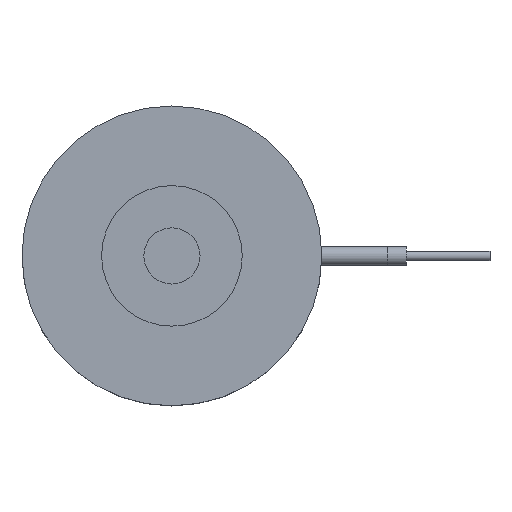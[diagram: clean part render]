
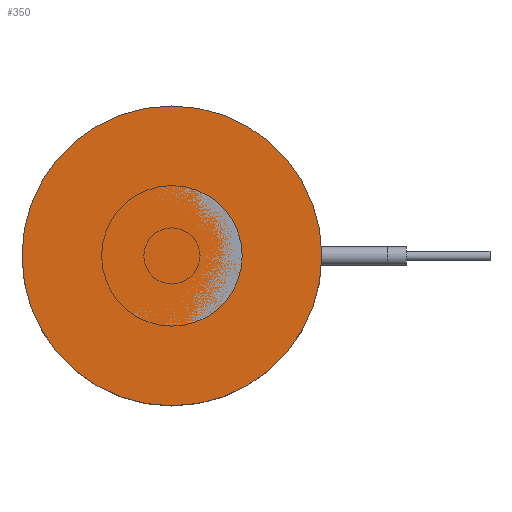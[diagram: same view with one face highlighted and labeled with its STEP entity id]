
A CAD part, top view. The second image highlights one B-rep face of the part: STEP entity #350.
In plain terms, the highlighted planar face has unit normal (0, 0, 1).
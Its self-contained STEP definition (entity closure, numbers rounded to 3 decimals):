
#222=PLANE('',#1190);
#274=FACE_OUTER_BOUND('',#565,.T.);
#350=ADVANCED_FACE('',(#274),#222,.F.);
#565=EDGE_LOOP('',(#777));
#777=ORIENTED_EDGE('',*,*,#976,.F.);
#869=VERTEX_POINT('',#1881);
#976=EDGE_CURVE('',#869,#869,#1046,.T.);
#1046=CIRCLE('',#1189,16.);
#1189=AXIS2_PLACEMENT_3D('',#1880,#1504,#1505);
#1190=AXIS2_PLACEMENT_3D('',#1882,#1506,#1507);
#1504=DIRECTION('',(0.,0.,-1.));
#1505=DIRECTION('',(-1.,0.,0.));
#1506=DIRECTION('',(0.,0.,-1.));
#1507=DIRECTION('',(-1.,0.,0.));
#1880=CARTESIAN_POINT('',(0.,0.,0.));
#1881=CARTESIAN_POINT('',(-16.,0.,0.));
#1882=CARTESIAN_POINT('',(0.,0.,0.));
